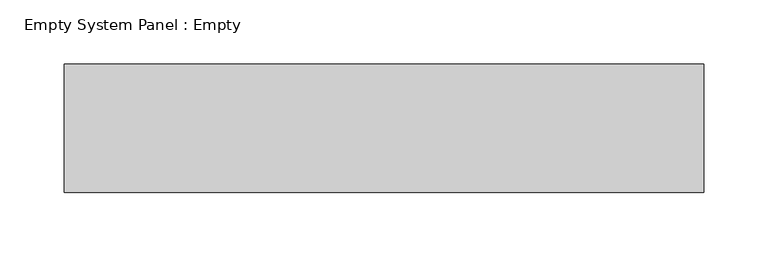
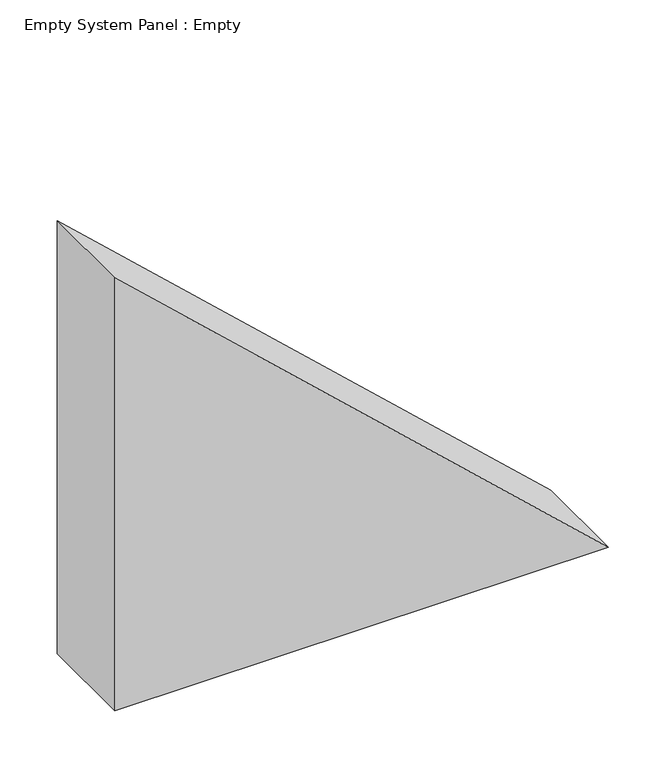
"""IFC4 building model written with IfcOpenShell, lengths in millimetres: plate geometry, Empty System Panel : Empty."""

from ifc_helpers import new_model, si_unit, frame, origin, place, context, project, spatial, polyline, outline, extrude, source, transform, mapped, element, save


def empty_system_panel_empty_d8d5e40f(model_context):
    return source(origin(), model_context, "Body", "SweptSolid", [
        extrude(outline(polyline([(0.0, -248.6807831), (0.0, 248.6807831), (461.1520451, -248.6807831), (0.0, -248.6807831)])), frame((0.0, -50.0, 0.0), z_axis=(0.0, 1.0, 0.0), x_axis=(0.0, 0.0, 1.0)), (0.0, 0.0, 1.0), 100.0),
    ])


if __name__ == "__main__":
    model = new_model("IFC4")
    model_context = context("Model", 3, world=origin())
    ifc_project = project(units=[si_unit("LENGTHUNIT", "METRE", prefix="MILLI")], contexts=[model_context])
    site = spatial("IfcSite", under=ifc_project)
    building = spatial("IfcBuilding", under=site)
    placement = place(None, origin())
    empty_system_panel_empty_shape = empty_system_panel_empty_d8d5e40f(model_context)
    element("IfcPlate", 1, ObjectType="Empty System Panel : Empty", at=placement, inside=building, context=model_context, shape_type="MappedRepresentation", body=[
        mapped(empty_system_panel_empty_shape, transform((0.0, 0.0, 0.0), x_axis=(1.0, 0.0, 0.0), y_axis=(0.0, 1.0, 0.0), z_axis=(0.0, 0.0, 1.0))),
    ])
    save(model, "model.ifc")
